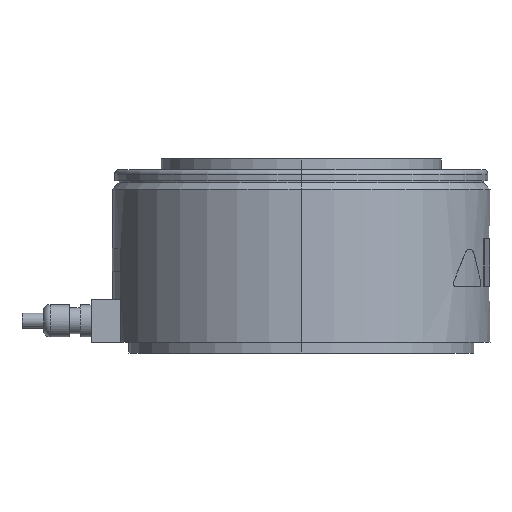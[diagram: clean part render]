
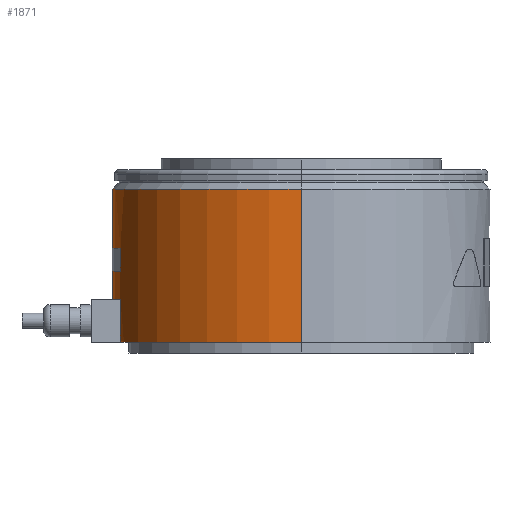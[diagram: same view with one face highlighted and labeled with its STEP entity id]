
A CAD part, left-side view. The second image highlights one B-rep face of the part: STEP entity #1871.
In plain terms, the highlighted cylindrical face has radius 87.5 mm (diameter 175 mm), a partial arc.
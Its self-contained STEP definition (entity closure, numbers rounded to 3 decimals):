
#767 = CARTESIAN_POINT ( 'NONE',  ( -87.5, 0., 76. ) ) ;
#790 = CARTESIAN_POINT ( 'NONE',  ( 25., 83.853, 6. ) ) ;
#791 = CARTESIAN_POINT ( 'NONE',  ( -25., 83.853, 25. ) ) ;
#806 = CARTESIAN_POINT ( 'NONE',  ( 87.5, 0., 76. ) ) ;
#825 = CARTESIAN_POINT ( 'NONE',  ( 25., 83.853, 25. ) ) ;
#826 = CARTESIAN_POINT ( 'NONE',  ( -25., 83.853, 6. ) ) ;
#958 = CARTESIAN_POINT ( 'NONE',  ( 25., 83.853, 48.5 ) ) ;
#961 = CARTESIAN_POINT ( 'NONE',  ( -25., 83.853, 38. ) ) ;
#964 = CARTESIAN_POINT ( 'NONE',  ( -87.5, 0., 5. ) ) ;
#966 = CARTESIAN_POINT ( 'NONE',  ( 87.5, 0., 5. ) ) ;
#968 = CARTESIAN_POINT ( 'NONE',  ( 25., 83.853, 38. ) ) ;
#969 = CARTESIAN_POINT ( 'NONE',  ( -25., 83.853, 48.5 ) ) ;
#1111 = VERTEX_POINT ( 'NONE', #969 ) ;
#1112 = VERTEX_POINT ( 'NONE', #968 ) ;
#1114 = VERTEX_POINT ( 'NONE', #966 ) ;
#1116 = VERTEX_POINT ( 'NONE', #964 ) ;
#1119 = VERTEX_POINT ( 'NONE', #961 ) ;
#1122 = VERTEX_POINT ( 'NONE', #958 ) ;
#1223 = VERTEX_POINT ( 'NONE', #826 ) ;
#1224 = VERTEX_POINT ( 'NONE', #825 ) ;
#1242 = VERTEX_POINT ( 'NONE', #806 ) ;
#1256 = VERTEX_POINT ( 'NONE', #791 ) ;
#1257 = VERTEX_POINT ( 'NONE', #790 ) ;
#1280 = VERTEX_POINT ( 'NONE', #767 ) ;
#1624 = EDGE_CURVE ( 'NONE', #1116, #1114, #3366, .T. ) ;
#1626 = EDGE_CURVE ( 'NONE', #1242, #1114, #3367, .T. ) ;
#1627 = EDGE_CURVE ( 'NONE', #1280, #1116, #3347, .T. ) ;
#1628 = EDGE_CURVE ( 'NONE', #1122, #1112, #3371, .T. ) ;
#1629 = EDGE_CURVE ( 'NONE', #1111, #1122, #3375, .T. ) ;
#1630 = EDGE_CURVE ( 'NONE', #1257, #1224, #3374, .T. ) ;
#1631 = EDGE_CURVE ( 'NONE', #1224, #1256, #3379, .T. ) ;
#1632 = EDGE_CURVE ( 'NONE', #1256, #1223, #3365, .T. ) ;
#1636 = EDGE_CURVE ( 'NONE', #1112, #1119, #2352, .T. ) ;
#1637 = EDGE_CURVE ( 'NONE', #1257, #1223, #2354, .T. ) ;
#1640 = EDGE_CURVE ( 'NONE', #1119, #1111, #2356, .T. ) ;
#1871 = ADVANCED_FACE ( 'NONE', ( #2573, #2581, #2583 ), #2577, .T. ) ;
#2135 = AXIS2_PLACEMENT_3D ( 'NONE', #5439, #5437, #5436 ) ;
#2136 = AXIS2_PLACEMENT_3D ( 'NONE', #5422, #5420, #5419 ) ;
#2139 = AXIS2_PLACEMENT_3D ( 'NONE', #5427, #5426, #5425 ) ;
#2140 = AXIS2_PLACEMENT_3D ( 'NONE', #5409, #5408, #5407 ) ;
#2142 = AXIS2_PLACEMENT_3D ( 'NONE', #5406, #5405, #5404 ) ;
#2349 = VECTOR ( 'NONE', #5398, 1000. ) ;
#2352 = CIRCLE ( 'NONE', #2140, 87.5 ) ;
#2354 = CIRCLE ( 'NONE', #2142, 87.5 ) ;
#2356 = LINE ( 'NONE', #5412, #2349 ) ;
#2573 = FACE_BOUND ( 'NONE', #4692, .T. ) ;
#2577 = CYLINDRICAL_SURFACE ( 'NONE', #4665, 87.5 ) ;
#2581 = FACE_BOUND ( 'NONE', #4625, .T. ) ;
#2583 = FACE_OUTER_BOUND ( 'NONE', #4693, .T. ) ;
#2928 = ORIENTED_EDGE ( 'NONE', *, *, #1627, .F. ) ;
#2930 = ORIENTED_EDGE ( 'NONE', *, *, #1624, .F. ) ;
#2932 = ORIENTED_EDGE ( 'NONE', *, *, #1626, .T. ) ;
#2934 = ORIENTED_EDGE ( 'NONE', *, *, #5061, .T. ) ;
#2936 = ORIENTED_EDGE ( 'NONE', *, *, #1629, .F. ) ;
#2938 = ORIENTED_EDGE ( 'NONE', *, *, #1628, .F. ) ;
#2939 = ORIENTED_EDGE ( 'NONE', *, *, #1636, .F. ) ;
#2941 = ORIENTED_EDGE ( 'NONE', *, *, #1640, .F. ) ;
#2943 = ORIENTED_EDGE ( 'NONE', *, *, #1630, .T. ) ;
#2945 = ORIENTED_EDGE ( 'NONE', *, *, #1637, .F. ) ;
#2947 = ORIENTED_EDGE ( 'NONE', *, *, #1632, .T. ) ;
#3066 = AXIS2_PLACEMENT_3D ( 'NONE', #4187, #4193, #4194 ) ;
#3286 = CIRCLE ( 'NONE', #3066, 87.5 ) ;
#3344 = VECTOR ( 'NONE', #5432, 1000. ) ;
#3347 = LINE ( 'NONE', #5433, #3369 ) ;
#3365 = LINE ( 'NONE', #5418, #3373 ) ;
#3366 = CIRCLE ( 'NONE', #2135, 87.5 ) ;
#3367 = LINE ( 'NONE', #5438, #3344 ) ;
#3369 = VECTOR ( 'NONE', #5431, 1000. ) ;
#3370 = VECTOR ( 'NONE', #5423, 1000. ) ;
#3371 = LINE ( 'NONE', #5429, #3372 ) ;
#3372 = VECTOR ( 'NONE', #5428, 1000. ) ;
#3373 = VECTOR ( 'NONE', #5417, 1000. ) ;
#3374 = LINE ( 'NONE', #5430, #3370 ) ;
#3375 = CIRCLE ( 'NONE', #2139, 87.5 ) ;
#3379 = CIRCLE ( 'NONE', #2136, 87.5 ) ;
#3542 = DIRECTION ( 'NONE',  ( 0., 0., -1. ) ) ;
#3543 = DIRECTION ( 'NONE',  ( -1., 0., 0. ) ) ;
#3545 = CARTESIAN_POINT ( 'NONE',  ( 0., 0., 0. ) ) ;
#4187 = CARTESIAN_POINT ( 'NONE',  ( 0., 0., 76. ) ) ;
#4193 = DIRECTION ( 'NONE',  ( 0., 0., -1. ) ) ;
#4194 = DIRECTION ( 'NONE',  ( -1., 0., 0. ) ) ;
#4625 = EDGE_LOOP ( 'NONE', ( #2941, #2939, #2938, #2936 ) ) ;
#4665 = AXIS2_PLACEMENT_3D ( 'NONE', #3545, #3542, #3543 ) ;
#4692 = EDGE_LOOP ( 'NONE', ( #5138, #2947, #2945, #2943 ) ) ;
#4693 = EDGE_LOOP ( 'NONE', ( #2934, #2932, #2930, #2928 ) ) ;
#5061 = EDGE_CURVE ( 'NONE', #1280, #1242, #3286, .T. ) ;
#5138 = ORIENTED_EDGE ( 'NONE', *, *, #1631, .T. ) ;
#5398 = DIRECTION ( 'NONE',  ( 0., 0., 1. ) ) ;
#5404 = DIRECTION ( 'NONE',  ( -1., 0., 0. ) ) ;
#5405 = DIRECTION ( 'NONE',  ( 0., 0., 1. ) ) ;
#5406 = CARTESIAN_POINT ( 'NONE',  ( 0., 0., 6. ) ) ;
#5407 = DIRECTION ( 'NONE',  ( -1., 0., 0. ) ) ;
#5408 = DIRECTION ( 'NONE',  ( 0., 0., 1. ) ) ;
#5409 = CARTESIAN_POINT ( 'NONE',  ( 0., 0., 38. ) ) ;
#5412 = CARTESIAN_POINT ( 'NONE',  ( -25., 83.853, 0. ) ) ;
#5417 = DIRECTION ( 'NONE',  ( 0., 0., -1. ) ) ;
#5418 = CARTESIAN_POINT ( 'NONE',  ( -25., 83.853, 0. ) ) ;
#5419 = DIRECTION ( 'NONE',  ( -1., 0., 0. ) ) ;
#5420 = DIRECTION ( 'NONE',  ( 0., 0., 1. ) ) ;
#5422 = CARTESIAN_POINT ( 'NONE',  ( 0., 0., 25. ) ) ;
#5423 = DIRECTION ( 'NONE',  ( 0., 0., 1. ) ) ;
#5425 = DIRECTION ( 'NONE',  ( 1., 0., 0. ) ) ;
#5426 = DIRECTION ( 'NONE',  ( 0., 0., -1. ) ) ;
#5427 = CARTESIAN_POINT ( 'NONE',  ( 0., 0., 48.5 ) ) ;
#5428 = DIRECTION ( 'NONE',  ( 0., 0., -1. ) ) ;
#5429 = CARTESIAN_POINT ( 'NONE',  ( 25., 83.853, 0. ) ) ;
#5430 = CARTESIAN_POINT ( 'NONE',  ( 25., 83.853, 0. ) ) ;
#5431 = DIRECTION ( 'NONE',  ( 0., 0., -1. ) ) ;
#5432 = DIRECTION ( 'NONE',  ( 0., 0., -1. ) ) ;
#5433 = CARTESIAN_POINT ( 'NONE',  ( -87.5, 0., 0. ) ) ;
#5436 = DIRECTION ( 'NONE',  ( -1., 0., 0. ) ) ;
#5437 = DIRECTION ( 'NONE',  ( 0., 0., -1. ) ) ;
#5438 = CARTESIAN_POINT ( 'NONE',  ( 87.5, 0., 0. ) ) ;
#5439 = CARTESIAN_POINT ( 'NONE',  ( 0., 0., 5. ) ) ;
